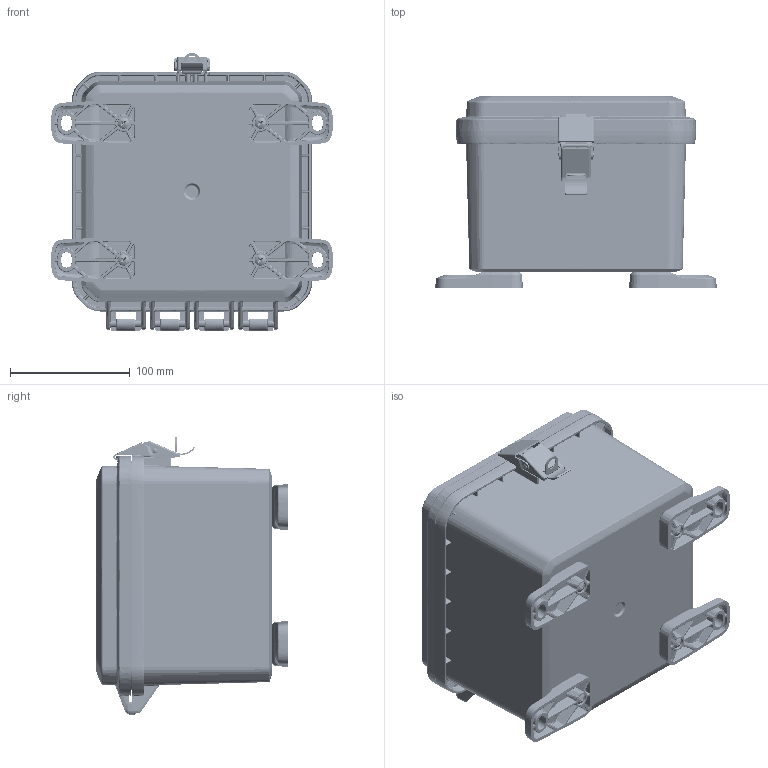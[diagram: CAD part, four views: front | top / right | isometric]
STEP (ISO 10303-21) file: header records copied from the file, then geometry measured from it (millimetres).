
FILE_DESCRIPTION (( 'STEP AP214' ), '1' );
FILE_NAME ('HP-070705-02.STEP', '2025-02-12T11:35:50', ( '' ), ( '' ), 'SwSTEP 2.0', 'SolidWorks 2024', '' );
FILE_SCHEMA (( 'AUTOMOTIVE_DESIGN' ));
Length unit declared in the file: inch
Products named in the file (16): ZH-01L4; HP-07071C_HP-07071C-02; HP-0707xB_HP-07074B-01; ZH-01L; LABEL-105; ZH-01L3; ZH-01L1; HP-070705-02; ZH-01L5; INSERTS-4; HP-0707xBI_HP-07074BI-01; SCREWS-046_SCREWS-046; ZH-01F_ZH-01F-01; HP-07071CG_HP-07071CG-02; ZH-01L2; HP-0707G
Assembly tree (24 placements, depth 3):
  HP-070705-02
    HP-0707xBI_HP-07074BI-01
      HP-0707xB_HP-07074B-01
      LABEL-105
      INSERTS-4  x4
    HP-07071CG_HP-07071CG-02
      HP-07071C_HP-07071C-02
      HP-0707G
    ZH-01L
      ZH-01L1
      ZH-01L2
      ZH-01L3
      ZH-01L4
      ZH-01L5
    ZH-01F_ZH-01F-01  x4
    SCREWS-046_SCREWS-046  x4
Bounding box: 234.95 x 159.51 x 232.37 mm (x, y, z)
Volume: 738272.5 mm3; surface area: 478834.6 mm2
Topology: 21 solids, 21 shells, 6811 faces, 16330 edges, 9474 vertices
Faces by surface type: bspline 2395, cylinder 1533, plane 1195, cone 832, torus 688, sphere 168
Entity records: 212063 total; most frequent: CARTESIAN_POINT 115025, ORIENTED_EDGE 22640, DIRECTION 17514, EDGE_CURVE 11320, AXIS2_PLACEMENT_3D 7192, VERTEX_POINT 6558, EDGE_LOOP 4896, ADVANCED_FACE 4819
